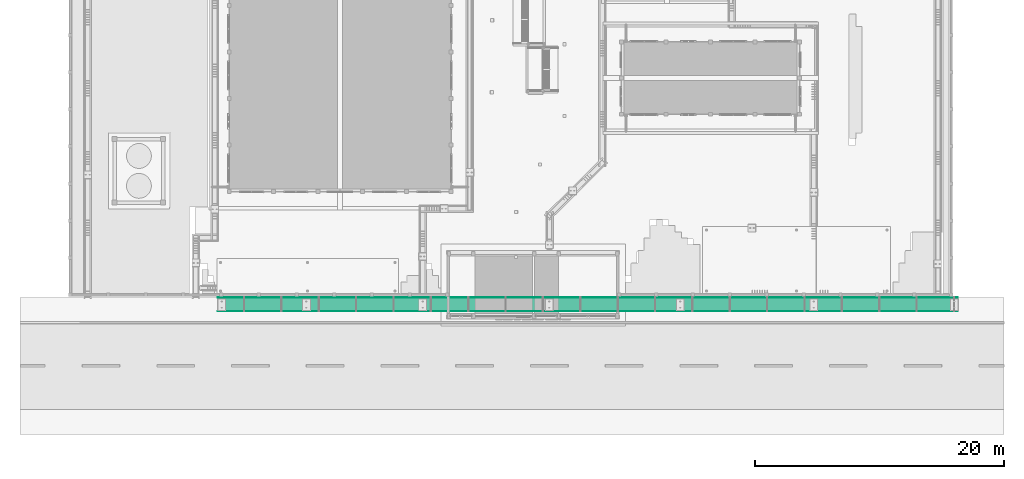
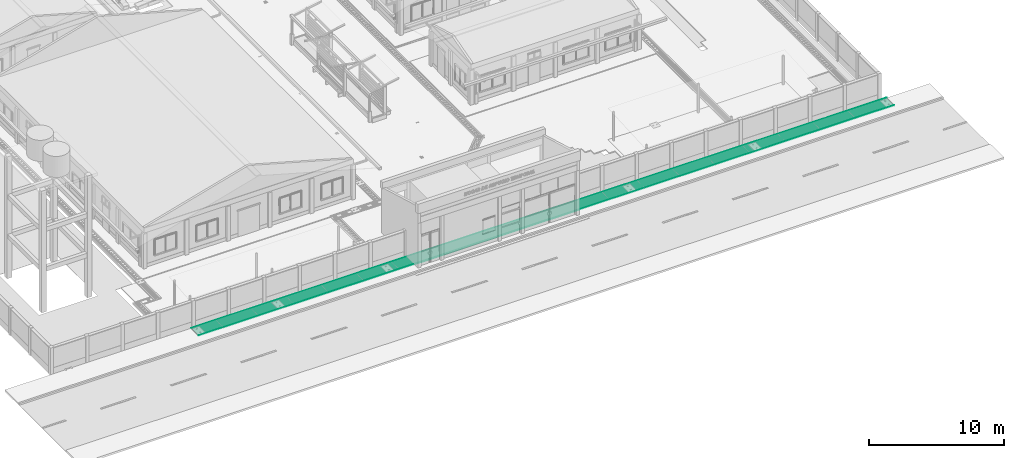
# One storey, part 89 of 151: 3 flow segments.
"""IFC2X3 building model written with IfcOpenShell, lengths in metres."""

from ifc_helpers import new_model, si_unit, origin, origin_with_axes, place, context, subcontext, project, spatial, faceted_brep, element, save


model = new_model("IFC2X3")

# Units and contexts
model_context = context("Model", 3, precision=1e-05, world=origin_with_axes())
body_context = subcontext(model_context, "Body", "Model", "MODEL_VIEW")
ifc_project = project(units=[si_unit("LENGTHUNIT", "METRE"), si_unit("AREAUNIT", "SQUARE_METRE"), si_unit("VOLUMEUNIT", "CUBIC_METRE"), si_unit("PLANEANGLEUNIT", "RADIAN")], contexts=[model_context])

# Site, building, storey
site_placement = place(None, origin_with_axes())
site = spatial("IfcSite", under=ifc_project, at=site_placement, Name="Predio Los Mangos - Morales, San Martín", CompositionType="ELEMENT")
building_placement = place(site_placement, origin())
building = spatial("IfcBuilding", under=site, at=building_placement, Name="Hogar de Refugio Temporal", CompositionType="ELEMENT")
storey_placement = place(building_placement, origin())
storey = spatial("IfcBuildingStorey", under=building, at=storey_placement, Name="NIVEL 1 (NPT +0.00)", CompositionType="ELEMENT", Elevation=0.0)

# Flow segments
flow_segment_1_placement = place(storey_placement, origin())
element("IfcFlowSegment", 1, at=flow_segment_1_placement, inside=storey, Name="colector_losa", ObjectType="Colector frontal b=0.80 (losa-vereda)", context=body_context, shape_type="Brep", body=[
    faceted_brep([(12.895, 16.665, 0.15), (12.895, 17.79, 0.15), (72.3, 17.79, 0.15), (72.3, 16.665, 0.15), (12.895, 16.665, 0.162), (72.3, 16.665, 0.162), (72.3, 17.79, 0.162), (12.895, 17.79, 0.162)], [[[0, 1, 2, 3]], [[4, 5, 6, 7]], [[0, 3, 5, 4]], [[3, 2, 6, 5]], [[2, 1, 7, 6]], [[1, 0, 4, 7]]]),
])
flow_segment_2_placement = place(storey_placement, origin())
element("IfcFlowSegment", 2, at=flow_segment_2_placement, inside=storey, Name="junta_colector", ObjectType="Colector frontal b=0.80 (losa-vereda)", context=body_context, shape_type="Brep", body=[
    faceted_brep([(12.895, 16.665, 0.15), (12.895, 16.6904, 0.15), (72.3, 16.6904, 0.15), (72.3, 16.665, 0.15), (12.895, 16.665, 0.164), (72.3, 16.665, 0.164), (72.3, 16.6904, 0.164), (12.895, 16.6904, 0.164)], [[[0, 1, 2, 3]], [[4, 5, 6, 7]], [[0, 3, 5, 4]], [[3, 2, 6, 5]], [[2, 1, 7, 6]], [[1, 0, 4, 7]]]),
])
flow_segment_3_placement = place(storey_placement, origin())
element("IfcFlowSegment", 3, at=flow_segment_3_placement, inside=storey, Name="junta_colector", ObjectType="Colector frontal b=0.80 (losa-vereda)", context=body_context, shape_type="Brep", body=[
    faceted_brep([(12.895, 17.7646, 0.15), (12.895, 17.79, 0.15), (72.3, 17.79, 0.15), (72.3, 17.7646, 0.15), (12.895, 17.7646, 0.164), (72.3, 17.7646, 0.164), (72.3, 17.79, 0.164), (12.895, 17.79, 0.164)], [[[0, 1, 2, 3]], [[4, 5, 6, 7]], [[0, 3, 5, 4]], [[3, 2, 6, 5]], [[2, 1, 7, 6]], [[1, 0, 4, 7]]]),
])

save(model, "model.ifc")
